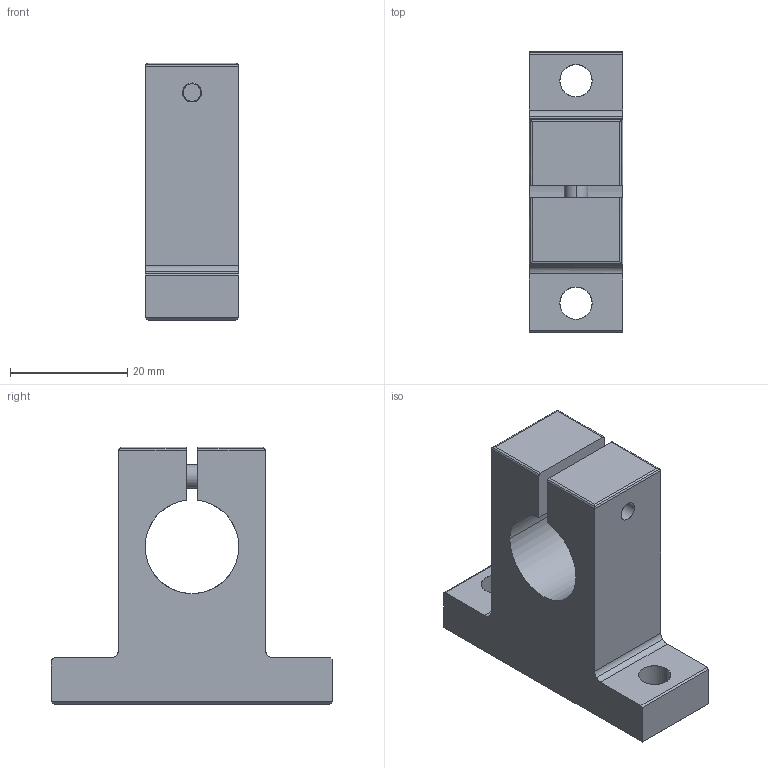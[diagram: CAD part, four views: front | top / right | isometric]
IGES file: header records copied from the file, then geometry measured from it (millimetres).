
Global section: file name: No Iges File Name specified; native system: AutoDesk Inventor R10; preprocessor: AutoDesk Inventor Iges Exporter R10; author: No Author specified; organization: No Organization specified; date: 20101214.153029; units: millimetre
Bounding box: 16 x 48 x 44 mm (x, y, z)
Surface area: 6661.8 mm2 (no closed solid volume)
Topology: 0 solids, 0 shells, 69 faces, 412 edges, 410 vertices
Faces by surface type: bspline 69
